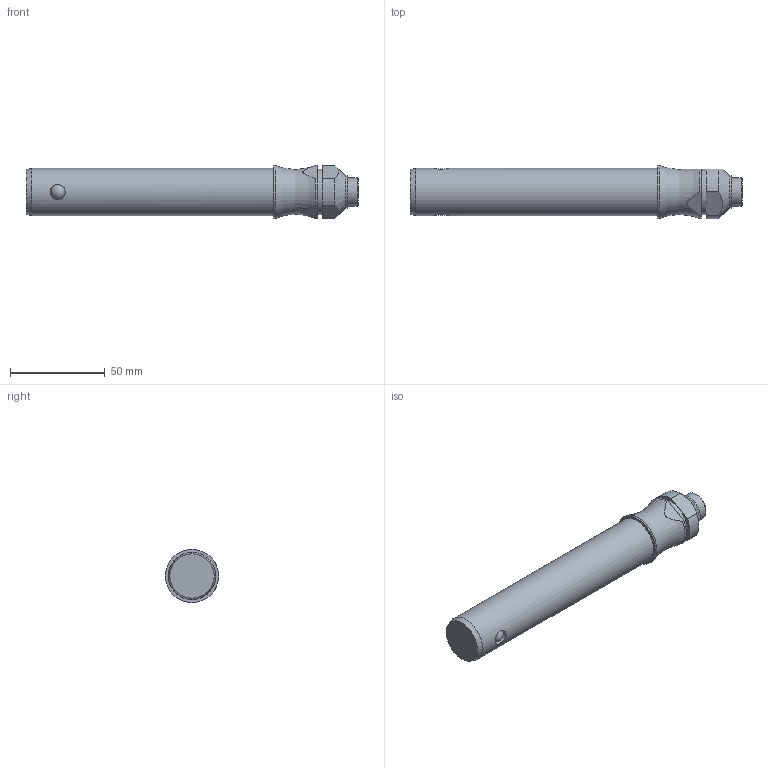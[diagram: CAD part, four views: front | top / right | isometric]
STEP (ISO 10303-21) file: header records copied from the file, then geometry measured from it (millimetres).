
FILE_DESCRIPTION( ( 'STEP AP203' ), '1' );
FILE_NAME( 'C:/Temp/Ganter_Step_05_03_2020/data/3_1/gn113_3/Stainless Steel-Ball lock pin GN 113.3-25-110 (activated).stp', '2020-03-12T08:19:12', ( 'License CC BY-ND 4.0' ), ( 'CADENAS' ), ' ', 'PARTsolutions', ' ' );
FILE_SCHEMA( ( 'CONFIG_CONTROL_DESIGN' ) );
Length unit declared in the file: millimetre
Products named in the file (1): _Stainless Steel-Ball lock pin GN 113.3-25-110 (activated)
Bounding box: 175.05 x 28 x 28 mm (x, y, z)
Volume: 83661 mm3; surface area: 14993.4 mm2
Topology: 1 solids, 1 shells, 31 faces, 74 edges, 46 vertices
Faces by surface type: cylinder 13, plane 11, cone 4, sphere 2, torus 1
Full cylindrical faces by diameter (mm): 8 x2, 15 x1, 17 x1, 24 x1, 25 x1, 28 x1
Entity records: 1046 total; most frequent: CARTESIAN_POINT 382, DIRECTION 134, ORIENTED_EDGE 104, AXIS2_PLACEMENT_3D 58, EDGE_CURVE 52, EDGE_LOOP 48, VERTEX_POINT 40, FACE_OUTER_BOUND 39
